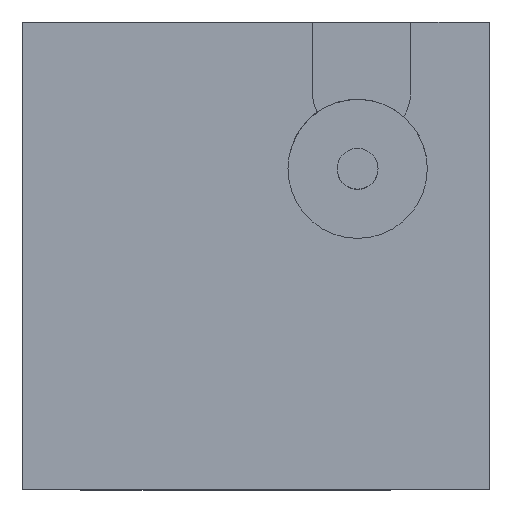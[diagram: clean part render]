
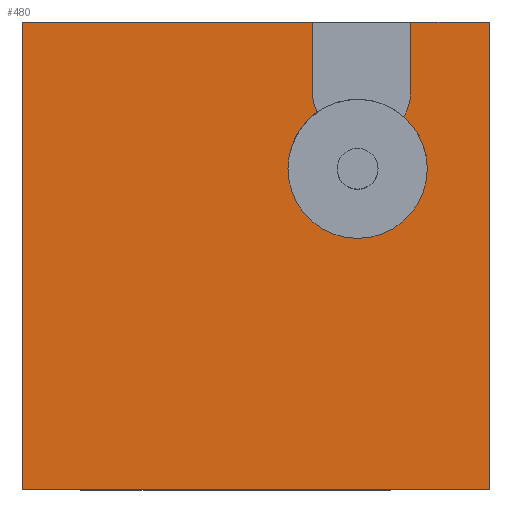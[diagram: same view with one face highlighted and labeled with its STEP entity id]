
A CAD part, top view. The second image highlights one B-rep face of the part: STEP entity #480.
In plain terms, the highlighted planar face has unit normal (0, 0, 1).
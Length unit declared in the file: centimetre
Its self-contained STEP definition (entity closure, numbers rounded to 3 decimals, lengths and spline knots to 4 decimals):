
#6 = CARTESIAN_POINT ( 'NONE',  ( 620.7992, 1000., 1000. ) ) ;
#9 = LINE ( 'NONE', #257, #62 ) ;
#18 = EDGE_CURVE ( 'NONE', #111, #439, #463, .T. ) ;
#21 = CARTESIAN_POINT ( 'NONE',  ( 866.6547, 686.004, 1000. ) ) ;
#32 = VERTEX_POINT ( 'NONE', #528 ) ;
#40 = VERTEX_POINT ( 'NONE', #6 ) ;
#43 = DIRECTION ( 'NONE',  ( 0., -1., 0. ) ) ;
#49 = CARTESIAN_POINT ( 'NONE',  ( 620.7992, 850.7244, 1000. ) ) ;
#51 = CARTESIAN_POINT ( 'NONE',  ( 0., 1000., 1000. ) ) ;
#62 = VECTOR ( 'NONE', #196, 100. ) ;
#67 = LINE ( 'NONE', #805, #158 ) ;
#69 = EDGE_CURVE ( 'NONE', #701, #111, #738, .T. ) ;
#78 = LINE ( 'NONE', #217, #201 ) ;
#87 = DIRECTION ( 'NONE',  ( 0., 0., 1. ) ) ;
#91 = PLANE ( 'NONE',  #426 ) ;
#102 = CIRCLE ( 'NONE', #213, 149.1077 ) ;
#111 = VERTEX_POINT ( 'NONE', #189 ) ;
#158 = VECTOR ( 'NONE', #538, 100. ) ;
#166 = DIRECTION ( 'NONE',  ( 1., 0., 0. ) ) ;
#178 = DIRECTION ( 'NONE',  ( -1., 0., 0. ) ) ;
#181 = ORIENTED_EDGE ( 'NONE', *, *, #391, .F. ) ;
#189 = CARTESIAN_POINT ( 'NONE',  ( 630.3439, 806.9532, 1000. ) ) ;
#192 = EDGE_CURVE ( 'NONE', #439, #844, #102, .T. ) ;
#196 = DIRECTION ( 'NONE',  ( -1., 0., 0. ) ) ;
#201 = VECTOR ( 'NONE', #394, 100. ) ;
#204 = DIRECTION ( 'NONE',  ( -1., 0., 0. ) ) ;
#213 = AXIS2_PLACEMENT_3D ( 'NONE', #303, #451, #563 ) ;
#217 = CARTESIAN_POINT ( 'NONE',  ( 0., 0., 1000. ) ) ;
#224 = CARTESIAN_POINT ( 'NONE',  ( 0., 0., 1000. ) ) ;
#229 = CARTESIAN_POINT ( 'NONE',  ( 717.5471, 686.004, 1000. ) ) ;
#249 = EDGE_CURVE ( 'NONE', #40, #793, #299, .T. ) ;
#254 = CARTESIAN_POINT ( 'NONE',  ( 0., 0., 1000. ) ) ;
#257 = CARTESIAN_POINT ( 'NONE',  ( 0., 1000., 1000. ) ) ;
#266 = EDGE_CURVE ( 'NONE', #793, #672, #573, .T. ) ;
#267 = LINE ( 'NONE', #474, #444 ) ;
#273 = CARTESIAN_POINT ( 'NONE',  ( 816.5882, 797.4668, 1000. ) ) ;
#279 = CIRCLE ( 'NONE', #763, 149.1077 ) ;
#282 = ORIENTED_EDGE ( 'NONE', *, *, #385, .T. ) ;
#291 = CIRCLE ( 'NONE', #651, 105.138 ) ;
#299 = LINE ( 'NONE', #51, #686 ) ;
#303 = CARTESIAN_POINT ( 'NONE',  ( 717.5471, 686.004, 1000. ) ) ;
#305 = EDGE_CURVE ( 'NONE', #844, #364, #279, .T. ) ;
#323 = ORIENTED_EDGE ( 'NONE', *, *, #849, .T. ) ;
#339 = DIRECTION ( 'NONE',  ( 1., 0., 0. ) ) ;
#344 = FACE_OUTER_BOUND ( 'NONE', #788, .T. ) ;
#364 = VERTEX_POINT ( 'NONE', #273 ) ;
#366 = DIRECTION ( 'NONE',  ( 1., 0., 0. ) ) ;
#371 = DIRECTION ( 'NONE',  ( 0., 0., 1. ) ) ;
#377 = CARTESIAN_POINT ( 'NONE',  ( 0., 1000., 1000. ) ) ;
#385 = EDGE_CURVE ( 'NONE', #32, #534, #9, .T. ) ;
#391 = EDGE_CURVE ( 'NONE', #40, #701, #67, .T. ) ;
#394 = DIRECTION ( 'NONE',  ( 1., 0., 0. ) ) ;
#405 = CARTESIAN_POINT ( 'NONE',  ( 0., 1000., 1000. ) ) ;
#408 = DIRECTION ( 'NONE',  ( 0., 1., 0. ) ) ;
#418 = EDGE_CURVE ( 'NONE', #364, #495, #291, .T. ) ;
#423 = ORIENTED_EDGE ( 'NONE', *, *, #249, .T. ) ;
#425 = ORIENTED_EDGE ( 'NONE', *, *, #754, .T. ) ;
#426 = AXIS2_PLACEMENT_3D ( 'NONE', #224, #87, #339 ) ;
#439 = VERTEX_POINT ( 'NONE', #733 ) ;
#444 = VECTOR ( 'NONE', #668, 100. ) ;
#451 = DIRECTION ( 'NONE',  ( 0., 0., 1. ) ) ;
#459 = DIRECTION ( 'NONE',  ( -1., 0., 0. ) ) ;
#463 = CIRCLE ( 'NONE', #516, 149.1077 ) ;
#468 = DIRECTION ( 'NONE',  ( 0., 0., 1. ) ) ;
#474 = CARTESIAN_POINT ( 'NONE',  ( 1000., 1000., 1000. ) ) ;
#480 = ADVANCED_FACE ( 'NONE', ( #344 ), #91, .T. ) ;
#495 = VERTEX_POINT ( 'NONE', #823 ) ;
#496 = CARTESIAN_POINT ( 'NONE',  ( 717.5471, 686.004, 1000. ) ) ;
#516 = AXIS2_PLACEMENT_3D ( 'NONE', #229, #759, #166 ) ;
#528 = CARTESIAN_POINT ( 'NONE',  ( 1000., 1000., 1000. ) ) ;
#534 = VERTEX_POINT ( 'NONE', #613 ) ;
#538 = DIRECTION ( 'NONE',  ( 0., -1., 0. ) ) ;
#551 = ORIENTED_EDGE ( 'NONE', *, *, #816, .F. ) ;
#563 = DIRECTION ( 'NONE',  ( 1., 0., 0. ) ) ;
#573 = LINE ( 'NONE', #377, #809 ) ;
#574 = ORIENTED_EDGE ( 'NONE', *, *, #305, .F. ) ;
#579 = CARTESIAN_POINT ( 'NONE',  ( 1000., 0., 1000. ) ) ;
#580 = ORIENTED_EDGE ( 'NONE', *, *, #418, .F. ) ;
#613 = CARTESIAN_POINT ( 'NONE',  ( 831.0751, 1000., 1000. ) ) ;
#622 = VECTOR ( 'NONE', #408, 100. ) ;
#633 = ORIENTED_EDGE ( 'NONE', *, *, #266, .T. ) ;
#649 = VERTEX_POINT ( 'NONE', #579 ) ;
#651 = AXIS2_PLACEMENT_3D ( 'NONE', #800, #468, #204 ) ;
#662 = LINE ( 'NONE', #818, #622 ) ;
#668 = DIRECTION ( 'NONE',  ( 0., 1., 0. ) ) ;
#672 = VERTEX_POINT ( 'NONE', #254 ) ;
#686 = VECTOR ( 'NONE', #178, 100. ) ;
#695 = ORIENTED_EDGE ( 'NONE', *, *, #192, .F. ) ;
#701 = VERTEX_POINT ( 'NONE', #49 ) ;
#708 = ORIENTED_EDGE ( 'NONE', *, *, #69, .F. ) ;
#710 = CARTESIAN_POINT ( 'NONE',  ( 725.9371, 850.7244, 1000. ) ) ;
#733 = CARTESIAN_POINT ( 'NONE',  ( 568.4394, 686.004, 1000. ) ) ;
#738 = CIRCLE ( 'NONE', #834, 105.138 ) ;
#754 = EDGE_CURVE ( 'NONE', #672, #649, #78, .T. ) ;
#759 = DIRECTION ( 'NONE',  ( 0., 0., 1. ) ) ;
#763 = AXIS2_PLACEMENT_3D ( 'NONE', #496, #371, #366 ) ;
#788 = EDGE_LOOP ( 'NONE', ( #708, #181, #423, #633, #425, #323, #282, #551, #580, #574, #695, #828 ) ) ;
#791 = DIRECTION ( 'NONE',  ( 0., 0., 1. ) ) ;
#793 = VERTEX_POINT ( 'NONE', #405 ) ;
#800 = CARTESIAN_POINT ( 'NONE',  ( 725.9371, 850.7244, 1000. ) ) ;
#805 = CARTESIAN_POINT ( 'NONE',  ( 620.7992, 850.7244, 1000. ) ) ;
#809 = VECTOR ( 'NONE', #43, 100. ) ;
#816 = EDGE_CURVE ( 'NONE', #495, #534, #662, .T. ) ;
#818 = CARTESIAN_POINT ( 'NONE',  ( 831.0751, 1000., 1000. ) ) ;
#823 = CARTESIAN_POINT ( 'NONE',  ( 831.0751, 850.7244, 1000. ) ) ;
#828 = ORIENTED_EDGE ( 'NONE', *, *, #18, .F. ) ;
#834 = AXIS2_PLACEMENT_3D ( 'NONE', #710, #791, #459 ) ;
#844 = VERTEX_POINT ( 'NONE', #21 ) ;
#849 = EDGE_CURVE ( 'NONE', #649, #32, #267, .T. ) ;
